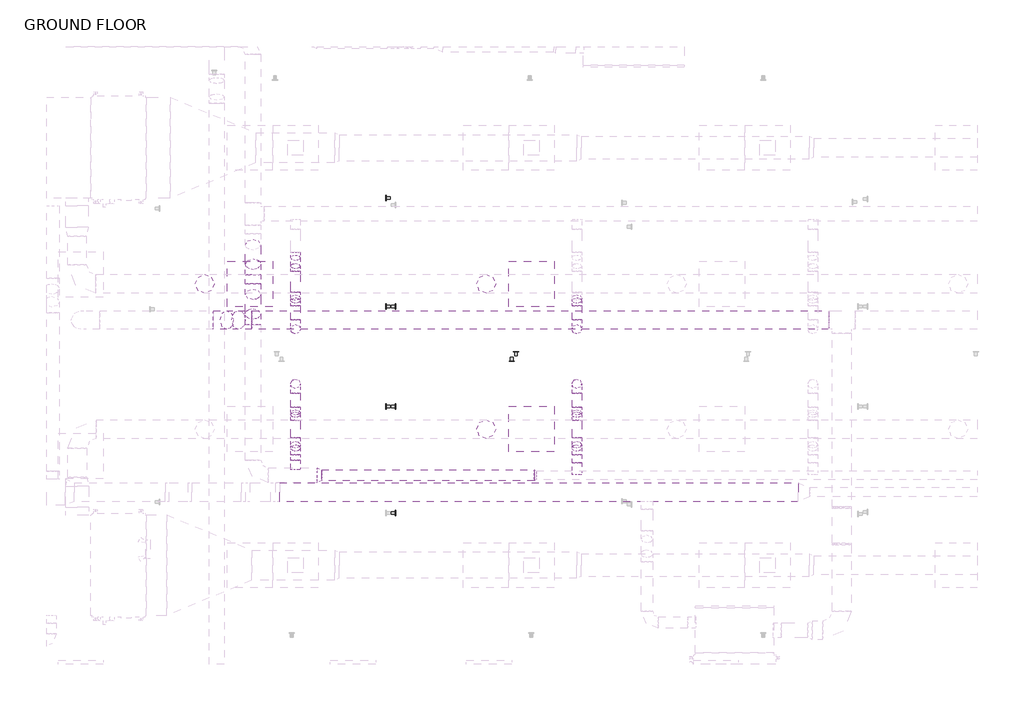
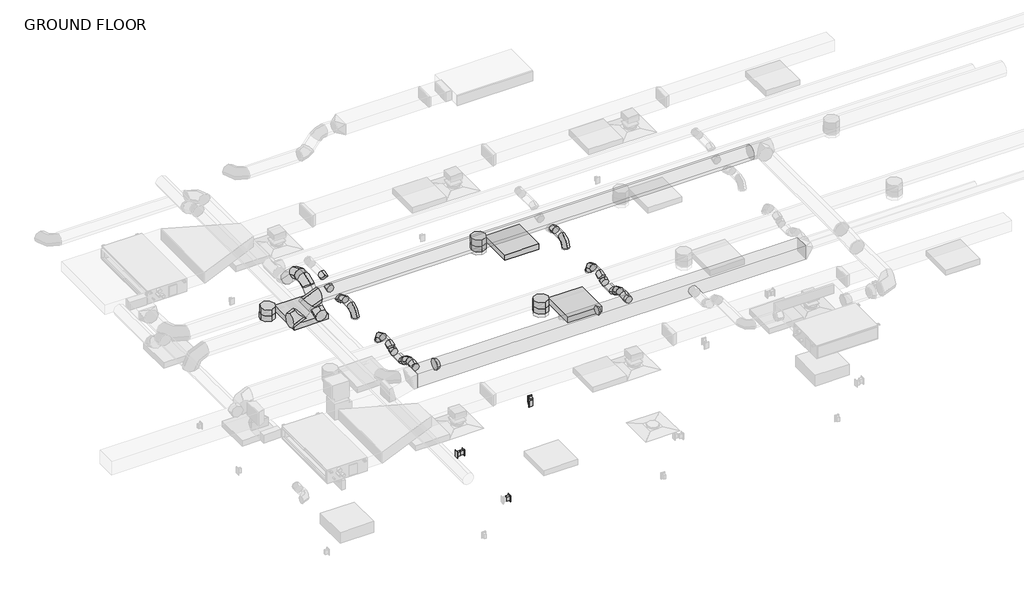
# One storey, part 3 of 22: 29 duct fittings, 29 duct segments, 6 proxies, 3 light fixtures, 2 electric appliances.
"""IFC4 building model written with IfcOpenShell, lengths in millimetres."""

from ifc_helpers import new_model, si_unit, point, frame, frame_2d, origin, place, context, project, spatial, polyline, circle_curve, trimmed, segment, composite_curve, outline, extrude, transform, mapped, element, save
from components import duplex_receptacle_countertop_10251bba, round_elbow_1_d_c80420c1, round_elbow_1_d_ab3aa7ba, round_elbow_1_d_e3dc691b, round_elbow_1_d_ea3dccb8, round_elbow_1_d_538d8ec8, round_elbow_1_d_400cd2ab, round_elbow_1_d_88736f48, round_elbow_1_d_3f34665d, round_takeoff_standard_c386a54e, round_takeoff_standard_86d024ab, round_takeoff_standard_c5a1f659, round_takeoff_standard_cae0fe22, round_transition_angle_45_degree_f2e0231c, round_transition_angle_45_degree_d2c7fbb0, telephone_outlet_data_plain_18c24199, troffer_corner_insert_2x2_3lamp_e67c7f8f

model = new_model("IFC4")

# Units and contexts
model_context = context("Model", 3, world=origin())
ifc_project = project(units=[si_unit("LENGTHUNIT", "METRE", prefix="MILLI")], contexts=[model_context])

# Site, building, storey
site = spatial("IfcSite", under=ifc_project)
building = spatial("IfcBuilding", under=site)
storey = spatial("IfcBuildingStorey", under=building, Name="GROUND FLOOR", Elevation=30480.0)

# Proxies
placement = place(None, origin())
duplex_receptacle_countertop_shape = duplex_receptacle_countertop_10251bba(model_context)
element("IfcBuildingElementProxy", 1, Name="Duplex Receptacle : Countertop", ObjectType="Duplex Receptacle : Countertop", at=placement, inside=storey, context=model_context, shape_type="MappedRepresentation", body=[
    mapped(duplex_receptacle_countertop_shape, transform((-2751.7704607, -2094.5054995, 30937.2), x_axis=(0.0, -1.0, 0.0), y_axis=(0.0, 0.0, 1.0), z_axis=(-1.0, 0.0, 0.0))),
])
element("IfcBuildingElementProxy", 2, Name="Duplex Receptacle : Countertop", ObjectType="Duplex Receptacle : Countertop", at=placement, inside=storey, context=model_context, shape_type="MappedRepresentation", body=[
    mapped(duplex_receptacle_countertop_shape, transform((-2627.9454607, -2094.5054995, 30937.2), x_axis=(0.0, 1.0, 0.0), y_axis=(0.0, 0.0, 1.0), z_axis=(1.0, 0.0, 0.0))),
])
element("IfcBuildingElementProxy", 3, Name="Duplex Receptacle : Countertop", ObjectType="Duplex Receptacle : Countertop", at=placement, inside=storey, context=model_context, shape_type="MappedRepresentation", body=[
    mapped(duplex_receptacle_countertop_shape, transform((-2627.9454607, -751.4804995, 30937.2), x_axis=(0.0, 1.0, 0.0), y_axis=(0.0, 0.0, 1.0), z_axis=(1.0, 0.0, 0.0))),
])
element("IfcBuildingElementProxy", 4, Name="Duplex Receptacle : Countertop", ObjectType="Duplex Receptacle : Countertop", at=placement, inside=storey, context=model_context, shape_type="MappedRepresentation", body=[
    mapped(duplex_receptacle_countertop_shape, transform((-2751.7704607, -751.4804995, 30937.2), x_axis=(0.0, -1.0, 0.0), y_axis=(0.0, 0.0, 1.0), z_axis=(-1.0, 0.0, 0.0))),
])
element("IfcBuildingElementProxy", 5, Name="Duplex Receptacle : Standard", ObjectType="Duplex Receptacle : Standard", at=placement, inside=storey, context=model_context, shape_type="MappedRepresentation", body=[
    mapped(duplex_receptacle_countertop_shape, transform((-1062.3593132, -1484.9054995, 30937.2), x_axis=(1.0, 0.0, 0.0), y_axis=(0.0, 0.0, 1.0), z_axis=(0.0, -1.0, 0.0))),
])
element("IfcBuildingElementProxy", 6, Name="Duplex Receptacle : Standard", ObjectType="Duplex Receptacle : Standard", at=placement, inside=storey, context=model_context, shape_type="MappedRepresentation", body=[
    mapped(duplex_receptacle_countertop_shape, transform((-1007.2617938, -1361.0804995, 30937.2), x_axis=(-1.0, 0.0, 0.0), y_axis=(0.0, 0.0, 1.0), z_axis=(0.0, 1.0, 0.0))),
])

# Duct fittings
round_elbow_1_d_shape = round_elbow_1_d_c80420c1(model_context)
element("IfcDuctFitting", 7, ObjectType="Round Elbow : 1 D", at=placement, inside=storey, context=model_context, shape_type="MappedRepresentation", body=[
    mapped(round_elbow_1_d_shape, transform((-3970.9704607, -1056.2804995, 33477.2), x_axis=(0.0, -1.0, 0.0), y_axis=(0.0, 0.0, -1.0), z_axis=(1.0, 0.0, 0.0))),
])
element("IfcDuctFitting", 8, ObjectType="Round Elbow : 1 D", at=placement, inside=storey, context=model_context, shape_type="MappedRepresentation", body=[
    mapped(round_elbow_1_d_shape, transform((-189.5454607, -1056.2804995, 33477.2), x_axis=(0.0, -1.0, 0.0), y_axis=(0.0, 0.0, -1.0), z_axis=(1.0, 0.0, 0.0))),
])
round_elbow_1_d_2_shape = round_elbow_1_d_ab3aa7ba(model_context)
element("IfcDuctFitting", 9, ObjectType="Round Elbow : 1 D", at=placement, inside=storey, context=model_context, shape_type="MappedRepresentation", body=[
    mapped(round_elbow_1_d_2_shape, transform((-4541.976464, -909.8231584, 33528.0), x_axis=(0.0, 1.0, 0.0), y_axis=(0.0, 0.0, 1.0), z_axis=(1.0, 0.0, 0.0))),
])
element("IfcDuctFitting", 10, ObjectType="Round Elbow : 1 D", at=placement, inside=storey, context=model_context, shape_type="MappedRepresentation", body=[
    mapped(round_elbow_1_d_2_shape, transform((-4541.976464, -528.8231584, 33909.0), x_axis=(0.0, 0.7071067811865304, 0.7071067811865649), y_axis=(0.0, 0.7071067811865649, -0.7071067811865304), z_axis=(-1.0, 0.0, 0.0))),
])
round_elbow_1_d_3_shape = round_elbow_1_d_e3dc691b(model_context)
element("IfcDuctFitting", 11, ObjectType="Round Elbow : 1 D", at=placement, inside=storey, context=model_context, shape_type="MappedRepresentation", body=[
    mapped(round_elbow_1_d_3_shape, transform((-3970.9704607, -2688.8145579, 33528.0), x_axis=(0.0, 1.0, 0.0), y_axis=(0.0, 0.0, -1.0), z_axis=(-1.0, 0.0, 0.0))),
])
element("IfcDuctFitting", 12, ObjectType="Round Elbow : 1 D", at=placement, inside=storey, context=model_context, shape_type="MappedRepresentation", body=[
    mapped(round_elbow_1_d_3_shape, transform((-3970.9704607, -2571.0260053, 33410.2114474), x_axis=(0.0, 0.7071067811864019, -0.7071067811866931), y_axis=(0.0, 0.7071067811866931, 0.7071067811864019), z_axis=(1.0, 0.0, 0.0))),
])
element("IfcDuctFitting", 13, ObjectType="Round Elbow : 1 D", at=placement, inside=storey, context=model_context, shape_type="MappedRepresentation", body=[
    mapped(round_elbow_1_d_3_shape, transform((-189.5454607, -2571.0260053, 33410.2114474), x_axis=(0.0, 0.7071067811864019, -0.7071067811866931), y_axis=(0.0, 0.7071067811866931, 0.7071067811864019), z_axis=(1.0, 0.0, 0.0))),
])
element("IfcDuctFitting", 14, ObjectType="Round Elbow : 1 D", at=placement, inside=storey, context=model_context, shape_type="MappedRepresentation", body=[
    mapped(round_elbow_1_d_3_shape, transform((-189.5454607, -2688.8145579, 33528.0), x_axis=(0.0, -0.707106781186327, 0.7071067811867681), y_axis=(0.0, -0.7071067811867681, -0.707106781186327), z_axis=(1.0, 0.0, 0.0))),
])
round_elbow_1_d_4_shape = round_elbow_1_d_ea3dccb8(model_context)
element("IfcDuctFitting", 15, ObjectType="Round Elbow : 1 D", at=placement, inside=storey, context=model_context, shape_type="MappedRepresentation", body=[
    mapped(round_elbow_1_d_4_shape, transform((-4664.8198591, -932.4554995, 33883.6), x_axis=(-1.0, 0.0, 0.0), y_axis=(0.0, 0.0, -1.0), z_axis=(0.0, -1.0, 0.0))),
])
element("IfcDuctFitting", 16, ObjectType="Round Elbow : 1 D", at=placement, inside=storey, context=model_context, shape_type="MappedRepresentation", body=[
    mapped(round_elbow_1_d_4_shape, transform((-4969.6198591, -932.4554995, 33578.8), x_axis=(-0.7071067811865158, 0.0, -0.7071067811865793), y_axis=(-0.7071067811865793, 0.0, 0.7071067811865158), z_axis=(0.0, 1.0, 0.0))),
])
round_elbow_1_d_5_shape = round_elbow_1_d_538d8ec8(model_context)
element("IfcDuctFitting", 17, ObjectType="Round Elbow : 1 D", at=placement, inside=storey, context=model_context, shape_type="MappedRepresentation", body=[
    mapped(round_elbow_1_d_5_shape, transform((-3970.9704607, -703.4357216, 33477.2), x_axis=(0.0, 1.0, 0.0), y_axis=(0.0, 0.0, -1.0), z_axis=(-1.0, 0.0, 0.0))),
])
element("IfcDuctFitting", 18, ObjectType="Round Elbow : 1 D", at=placement, inside=storey, context=model_context, shape_type="MappedRepresentation", body=[
    mapped(round_elbow_1_d_5_shape, transform((-3970.9704607, -599.403412, 33404.3557926), x_axis=(0.0, 0.8191520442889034, -0.5735764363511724), y_axis=(0.0, 0.5735764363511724, 0.8191520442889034), z_axis=(1.0, 0.0, 0.0))),
])
element("IfcDuctFitting", 19, ObjectType="Round Elbow : 1 D", at=placement, inside=storey, context=model_context, shape_type="MappedRepresentation", body=[
    mapped(round_elbow_1_d_5_shape, transform((-3970.9704607, -240.3054995, 33404.3557926), x_axis=(0.0, 1.0, 0.0), y_axis=(0.0, 0.0, 1.0), z_axis=(1.0, 0.0, 0.0))),
])
element("IfcDuctFitting", 20, ObjectType="Round Elbow : 1 D", at=placement, inside=storey, context=model_context, shape_type="MappedRepresentation", body=[
    mapped(round_elbow_1_d_5_shape, transform((-3970.9704607, -2238.2198452, 33410.2114474), x_axis=(0.0, -0.8191520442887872, -0.5735764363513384), y_axis=(0.0, -0.5735764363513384, 0.8191520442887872), z_axis=(-1.0, 0.0, 0.0))),
])
element("IfcDuctFitting", 21, ObjectType="Round Elbow : 1 D", at=placement, inside=storey, context=model_context, shape_type="MappedRepresentation", body=[
    mapped(round_elbow_1_d_5_shape, transform((-3970.9704607, -63.7232711, 33528.0), x_axis=(0.0, 0.8191520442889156, 0.5735764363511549), y_axis=(0.0, 0.5735764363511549, -0.8191520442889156), z_axis=(-1.0, 0.0, 0.0))),
])
element("IfcDuctFitting", 22, ObjectType="Round Elbow : 1 D", at=placement, inside=storey, context=model_context, shape_type="MappedRepresentation", body=[
    mapped(round_elbow_1_d_5_shape, transform((-189.5454607, -703.4357216, 33477.2), x_axis=(0.0, 1.0, 0.0), y_axis=(0.0, 0.0, -1.0), z_axis=(-1.0, 0.0, 0.0))),
])
element("IfcDuctFitting", 23, ObjectType="Round Elbow : 1 D", at=placement, inside=storey, context=model_context, shape_type="MappedRepresentation", body=[
    mapped(round_elbow_1_d_5_shape, transform((-189.5454607, -2238.2198452, 33410.2114474), x_axis=(0.0, -0.8191520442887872, -0.5735764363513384), y_axis=(0.0, -0.5735764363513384, 0.8191520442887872), z_axis=(-1.0, 0.0, 0.0))),
])
round_elbow_1_d_6_shape = round_elbow_1_d_400cd2ab(model_context)
element("IfcDuctFitting", 24, ObjectType="Round Elbow : 1 D", at=placement, inside=storey, context=model_context, shape_type="MappedRepresentation", body=[
    mapped(round_elbow_1_d_6_shape, transform((-3970.9704607, -1789.7054995, 33477.2), x_axis=(0.0, 1.0, 0.0), y_axis=(0.0, 0.0, 1.0), z_axis=(1.0, 0.0, 0.0))),
])
element("IfcDuctFitting", 25, ObjectType="Round Elbow : 1 D", at=placement, inside=storey, context=model_context, shape_type="MappedRepresentation", body=[
    mapped(round_elbow_1_d_6_shape, transform((-189.5454607, -1789.7054995, 33477.2), x_axis=(0.0, 1.0, 0.0), y_axis=(0.0, 0.0, 1.0), z_axis=(1.0, 0.0, 0.0))),
])
round_elbow_1_d_7_shape = round_elbow_1_d_88736f48(model_context)
element("IfcDuctFitting", 26, ObjectType="Round Elbow : 1 D", at=placement, inside=storey, context=model_context, shape_type="MappedRepresentation", body=[
    mapped(round_elbow_1_d_7_shape, transform((-3970.9704607, -2142.5502773, 33477.2), x_axis=(0.0, -1.0, 0.0), y_axis=(0.0, 0.0, 1.0), z_axis=(-1.0, 0.0, 0.0))),
])
element("IfcDuctFitting", 27, ObjectType="Round Elbow : 1 D", at=placement, inside=storey, context=model_context, shape_type="MappedRepresentation", body=[
    mapped(round_elbow_1_d_7_shape, transform((-189.5454607, -2142.5502773, 33477.2), x_axis=(0.0, -1.0, 0.0), y_axis=(0.0, 0.0, 1.0), z_axis=(-1.0, 0.0, 0.0))),
])
round_elbow_1_d_8_shape = round_elbow_1_d_3f34665d(model_context)
element("IfcDuctFitting", 28, ObjectType="Round Elbow : 1 D", at=placement, inside=storey, context=model_context, shape_type="MappedRepresentation", body=[
    mapped(round_elbow_1_d_8_shape, transform((-4541.976464, -241.4549626, 33909.0), x_axis=(0.0, -0.7071067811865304, 0.7071067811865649), y_axis=(0.0, 0.7071067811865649, 0.7071067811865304), z_axis=(-1.0, 0.0, 0.0))),
])
round_takeoff_standard_shape = round_takeoff_standard_c386a54e(model_context)
element("IfcDuctFitting", 29, ObjectType="Round Takeoff : Standard", at=placement, inside=storey, context=model_context, shape_type="MappedRepresentation", body=[
    mapped(round_takeoff_standard_shape, transform((-1408.7454607, -446.6804995, 33490.69375), x_axis=(0.0, 0.0, -1.0), y_axis=(-1.0, 0.0, 0.0), z_axis=(0.0, 1.0, 0.0))),
])
element("IfcDuctFitting", 30, ObjectType="Round Takeoff : Standard", at=placement, inside=storey, context=model_context, shape_type="MappedRepresentation", body=[
    mapped(round_takeoff_standard_shape, transform((-5190.1704607, -446.6804995, 33490.69375), x_axis=(0.0, 0.0, -1.0), y_axis=(-1.0, 0.0, 0.0), z_axis=(0.0, 1.0, 0.0))),
])
round_takeoff_standard_2_shape = round_takeoff_standard_86d024ab(model_context)
element("IfcDuctFitting", 31, ObjectType="Round Takeoff : Standard", at=placement, inside=storey, context=model_context, shape_type="MappedRepresentation", body=[
    mapped(round_takeoff_standard_2_shape, transform((-3970.9704607, -2917.4145579, 33528.0), x_axis=(0.0, 1.0, 0.0), y_axis=(1.0, 0.0, 0.0), z_axis=(0.0, 0.0, -1.0))),
])
round_takeoff_standard_3_shape = round_takeoff_standard_c5a1f659(model_context)
element("IfcDuctFitting", 32, ObjectType="Round Takeoff : Standard", at=placement, inside=storey, context=model_context, shape_type="MappedRepresentation", body=[
    mapped(round_takeoff_standard_3_shape, transform((-1408.7454607, -2399.3054995, 33490.69375), x_axis=(0.0, 0.0, -1.0), y_axis=(-1.0, 0.0, 0.0), z_axis=(0.0, 1.0, 0.0))),
])
round_takeoff_standard_4_shape = round_takeoff_standard_cae0fe22(model_context)
element("IfcDuctFitting", 33, ObjectType="Round Takeoff : Standard", at=placement, inside=storey, context=model_context, shape_type="MappedRepresentation", body=[
    mapped(round_takeoff_standard_4_shape, transform((-189.5454607, -2955.5145579, 33528.0), x_axis=(0.0, 1.0, 0.0), y_axis=(1.0, 0.0, 0.0), z_axis=(0.0, 0.0, -1.0))),
])
round_transition_angle_45_degree_shape = round_transition_angle_45_degree_f2e0231c(model_context)
element("IfcDuctFitting", 34, ObjectType="Round Transition - Angle : 45 Degree", at=placement, inside=storey, context=model_context, shape_type="MappedRepresentation", body=[
    mapped(round_transition_angle_45_degree_shape, transform((-731.976464, -3019.0145579, 33528.0), x_axis=(-1.0, 0.0, 0.0), y_axis=(0.0, -1.0, 0.0), z_axis=(0.0, 0.0, 1.0))),
])
round_transition_angle_45_degree_2_shape = round_transition_angle_45_degree_d2c7fbb0(model_context)
element("IfcDuctFitting", 35, ObjectType="Round Transition - Angle : 45 Degree", at=placement, inside=storey, context=model_context, shape_type="MappedRepresentation", body=[
    mapped(round_transition_angle_45_degree_2_shape, transform((-3681.8784098, -3019.0145579, 33528.0), x_axis=(1.0, 0.0, 0.0), y_axis=(0.0, 1.0, 0.0), z_axis=(0.0, 0.0, 1.0))),
])

# Duct segments
element("IfcDuctSegment", 36, ObjectType="Radius Elbows / Taps", at=placement, inside=storey, context=model_context, shape_type="SweptSolid", body=[
    extrude(outline(polyline([(2787.255189, -3118.6216457), (2787.255189, -3372.6216457), (-4184.5880259, -3372.6216457), (-4184.5880259, -3118.6216457), (2787.255189, -3118.6216457)])), frame((0.0, 0.0, 33475.867541), z_axis=(0.0, 0.0, 1.0), x_axis=(1.0, 0.0, 0.0)), (0.0, 0.0, 1.0), 254.0),
])
element("IfcDuctSegment", 37, ObjectType="Taps / Short Radius", at=placement, inside=storey, context=model_context, shape_type="SweptSolid", body=[
    extrude(outline(composite_curve([segment(trimmed(circle_curve(frame_2d((-932.4554995, 33883.6)), 127.0), [point((-805.4554995, 33883.6))], [point((-932.4554995, 33756.6))], False, "CARTESIAN"), True, "CONTINUOUS"), segment(trimmed(circle_curve(frame_2d((-932.4554995, 33883.6)), 127.0), [point((-932.4554995, 33756.6))], [point((-1059.4554995, 33883.6))], False, "CARTESIAN"), True, "CONTINUOUS"), segment(trimmed(circle_curve(frame_2d((-932.4554995, 33883.6)), 127.0), [point((-1059.4554995, 33883.6))], [point((-932.4554995, 34010.6))], False, "CARTESIAN"), True, "CONTINUOUS"), segment(trimmed(circle_curve(frame_2d((-932.4554995, 33883.6)), 127.0), [point((-932.4554995, 34010.6))], [point((-805.4554995, 33883.6))], False, "CARTESIAN"), True, "CONTINUOUS")], self_intersect=False)), frame((-4559.6096142, 0.0, 0.0), z_axis=(1.0, 0.0, 0.0), x_axis=(0.0, 1.0, 0.0)), (0.0, 0.0, 1.0), 7755.0178177),
])
element("IfcDuctSegment", 38, ObjectType="Taps / Short Radius", at=placement, inside=storey, context=model_context, shape_type="SweptSolid", body=[
    extrude(outline(composite_curve([segment(trimmed(circle_curve(frame_2d((0.0, -127.0)), 127.0), [point((0.0, 0.0))], [point((127.0, -127.0))], False, "CARTESIAN"), True, "CONTINUOUS"), segment(trimmed(circle_curve(frame_2d((0.0, -127.0)), 127.0), [point((127.0, -127.0))], [point((0.0, -254.0))], False, "CARTESIAN"), True, "CONTINUOUS"), segment(trimmed(circle_curve(frame_2d((0.0, -127.0)), 127.0), [point((0.0, -254.0))], [point((-127.0, -127.0))], False, "CARTESIAN"), True, "CONTINUOUS"), segment(trimmed(circle_curve(frame_2d((0.0, -127.0)), 127.0), [point((-127.0, -127.0))], [point((0.0, 0.0))], False, "CARTESIAN"), True, "CONTINUOUS")], self_intersect=False)), frame((-4895.2249815, -805.4554995, 33653.1948776), z_axis=(0.7071067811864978, 0.0, 0.7071067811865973), x_axis=(0.7071067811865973, 0.0, -0.7071067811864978)), (0.0, 0.0, 1.0), 220.6318041),
])
element("IfcDuctSegment", 39, ObjectType="Taps / Short Radius", at=placement, inside=storey, context=model_context, shape_type="SweptSolid", body=[
    extrude(outline(composite_curve([segment(trimmed(circle_curve(frame_2d((-1408.7454607, -2399.3054995)), 127.0), [point((-1535.7454607, -2399.3054995))], [point((-1408.7454607, -2272.3054995))], False, "CARTESIAN"), True, "CONTINUOUS"), segment(trimmed(circle_curve(frame_2d((-1408.7454607, -2399.3054995)), 127.0), [point((-1408.7454607, -2272.3054995))], [point((-1281.7454607, -2399.3054995))], False, "CARTESIAN"), True, "CONTINUOUS"), segment(trimmed(circle_curve(frame_2d((-1408.7454607, -2399.3054995)), 127.0), [point((-1281.7454607, -2399.3054995))], [point((-1408.7454607, -2526.3054995))], False, "CARTESIAN"), True, "CONTINUOUS"), segment(trimmed(circle_curve(frame_2d((-1408.7454607, -2399.3054995)), 127.0), [point((-1408.7454607, -2526.3054995))], [point((-1535.7454607, -2399.3054995))], False, "CARTESIAN"), True, "CONTINUOUS")], self_intersect=False)), frame((0.0, 0.0, 33324.8), z_axis=(0.0, 0.0, 1.0), x_axis=(1.0, 0.0, 0.0)), (0.0, 0.0, 1.0), 64.29375),
])
element("IfcDuctSegment", 40, ObjectType="Taps / Short Radius", at=placement, inside=storey, context=model_context, shape_type="SweptSolid", body=[
    extrude(outline(composite_curve([segment(trimmed(circle_curve(frame_2d((-1408.7454607, -446.6804995)), 127.0), [point((-1535.7454607, -446.6804995))], [point((-1408.7454607, -319.6804995))], False, "CARTESIAN"), True, "CONTINUOUS"), segment(trimmed(circle_curve(frame_2d((-1408.7454607, -446.6804995)), 127.0), [point((-1408.7454607, -319.6804995))], [point((-1281.7454607, -446.6804995))], False, "CARTESIAN"), True, "CONTINUOUS"), segment(trimmed(circle_curve(frame_2d((-1408.7454607, -446.6804995)), 127.0), [point((-1281.7454607, -446.6804995))], [point((-1408.7454607, -573.6804995))], False, "CARTESIAN"), True, "CONTINUOUS"), segment(trimmed(circle_curve(frame_2d((-1408.7454607, -446.6804995)), 127.0), [point((-1408.7454607, -573.6804995))], [point((-1535.7454607, -446.6804995))], False, "CARTESIAN"), True, "CONTINUOUS")], self_intersect=False)), frame((0.0, 0.0, 33324.8), z_axis=(0.0, 0.0, 1.0), x_axis=(1.0, 0.0, 0.0)), (0.0, 0.0, 1.0), 64.29375),
])
element("IfcDuctSegment", 41, ObjectType="Taps / Short Radius", at=placement, inside=storey, context=model_context, shape_type="SweptSolid", body=[
    extrude(outline(composite_curve([segment(trimmed(circle_curve(frame_2d((-3970.9704607, -1056.2804995)), 63.5), [point((-4034.4704607, -1056.2804995))], [point((-3970.9704607, -992.7804995))], False, "CARTESIAN"), True, "CONTINUOUS"), segment(trimmed(circle_curve(frame_2d((-3970.9704607, -1056.2804995)), 63.5), [point((-3970.9704607, -992.7804995))], [point((-3907.4704607, -1056.2804995))], False, "CARTESIAN"), True, "CONTINUOUS"), segment(trimmed(circle_curve(frame_2d((-3970.9704607, -1056.2804995)), 63.5), [point((-3907.4704607, -1056.2804995))], [point((-3970.9704607, -1119.7804995))], False, "CARTESIAN"), True, "CONTINUOUS"), segment(trimmed(circle_curve(frame_2d((-3970.9704607, -1056.2804995)), 63.5), [point((-3970.9704607, -1119.7804995))], [point((-4034.4704607, -1056.2804995))], False, "CARTESIAN"), True, "CONTINUOUS")], self_intersect=False)), frame((0.0, 0.0, 33324.8), z_axis=(0.0, 0.0, 1.0), x_axis=(1.0, 0.0, 0.0)), (0.0, 0.0, 1.0), 25.4),
])
element("IfcDuctSegment", 42, ObjectType="Taps / Short Radius", at=placement, inside=storey, context=model_context, shape_type="SweptSolid", body=[
    extrude(outline(composite_curve([segment(trimmed(circle_curve(frame_2d((-3019.0145579, 33528.0)), 76.2), [point((-2942.8145579, 33528.0))], [point((-3019.0145579, 33451.8))], False, "CARTESIAN"), True, "CONTINUOUS"), segment(trimmed(circle_curve(frame_2d((-3019.0145579, 33528.0)), 76.2), [point((-3019.0145579, 33451.8))], [point((-3095.2145579, 33528.0))], False, "CARTESIAN"), True, "CONTINUOUS"), segment(trimmed(circle_curve(frame_2d((-3019.0145579, 33528.0)), 76.2), [point((-3095.2145579, 33528.0))], [point((-3019.0145579, 33604.2))], False, "CARTESIAN"), True, "CONTINUOUS"), segment(trimmed(circle_curve(frame_2d((-3019.0145579, 33528.0)), 76.2), [point((-3019.0145579, 33604.2))], [point((-2942.8145579, 33528.0))], False, "CARTESIAN"), True, "CONTINUOUS")], self_intersect=False)), frame((-3620.5573854, 0.0, 0.0), z_axis=(1.0, 0.0, 0.0), x_axis=(0.0, 1.0, 0.0)), (0.0, 0.0, 1.0), 2857.9204091),
])
element("IfcDuctSegment", 43, ObjectType="Taps / Short Radius", at=placement, inside=storey, context=model_context, shape_type="SweptSolid", body=[
    extrude(outline(composite_curve([segment(trimmed(circle_curve(frame_2d((33909.0, -4541.976464)), 101.6), [point((33909.0, -4440.376464))], [point((34010.6, -4541.976464))], False, "CARTESIAN"), True, "CONTINUOUS"), segment(trimmed(circle_curve(frame_2d((33909.0, -4541.976464)), 101.6), [point((34010.6, -4541.976464))], [point((33909.0, -4643.576464))], False, "CARTESIAN"), True, "CONTINUOUS"), segment(trimmed(circle_curve(frame_2d((33909.0, -4541.976464)), 101.6), [point((33909.0, -4643.576464))], [point((33807.4, -4541.976464))], False, "CARTESIAN"), True, "CONTINUOUS"), segment(trimmed(circle_curve(frame_2d((33909.0, -4541.976464)), 101.6), [point((33807.4, -4541.976464))], [point((33909.0, -4440.376464))], False, "CARTESIAN"), True, "CONTINUOUS")], self_intersect=False)), frame((0.0, -444.6549626, 0.0), z_axis=(0.0, 1.0, 0.0), x_axis=(0.0, 0.0, 1.0)), (0.0, 0.0, 1.0), 119.0318041),
])
element("IfcDuctSegment", 44, ObjectType="Taps / Short Radius", at=placement, inside=storey, context=model_context, shape_type="SweptSolid", body=[
    extrude(outline(composite_curve([segment(trimmed(circle_curve(frame_2d((0.0, 101.5999999)), 101.6), [point((101.6, 101.5999999))], [point((0.0, 0.0))], False, "CARTESIAN"), True, "CONTINUOUS"), segment(trimmed(circle_curve(frame_2d((0.0, 101.5999999)), 101.6), [point((0.0, 0.0))], [point((-101.6, 101.5999999))], False, "CARTESIAN"), True, "CONTINUOUS"), segment(trimmed(circle_curve(frame_2d((0.0, 101.5999999)), 101.6), [point((-101.6, 101.5999999))], [point((0.0, 203.1999999))], False, "CARTESIAN"), True, "CONTINUOUS"), segment(trimmed(circle_curve(frame_2d((0.0, 101.5999999)), 101.6), [point((0.0, 203.1999999))], [point((101.6, 101.5999999))], False, "CARTESIAN"), True, "CONTINUOUS")], self_intersect=False)), frame((-4541.976464, -922.1493053, 33659.357951), z_axis=(0.0, 0.7071067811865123, 0.7071067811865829), x_axis=(1.0, 0.0, 0.0)), (0.0, 0.0, 1.0), 370.4789755),
])
element("IfcDuctSegment", 45, ObjectType="Taps / Short Radius", at=placement, inside=storey, context=model_context, shape_type="SweptSolid", body=[
    extrude(outline(composite_curve([segment(trimmed(circle_curve(frame_2d((33477.2, -3970.9704607)), 63.5), [point((33477.2, -3907.4704607))], [point((33540.7, -3970.9704607))], False, "CARTESIAN"), True, "CONTINUOUS"), segment(trimmed(circle_curve(frame_2d((33477.2, -3970.9704607)), 63.5), [point((33540.7, -3970.9704607))], [point((33477.2, -4034.4704607))], False, "CARTESIAN"), True, "CONTINUOUS"), segment(trimmed(circle_curve(frame_2d((33477.2, -3970.9704607)), 63.5), [point((33477.2, -4034.4704607))], [point((33413.7, -3970.9704607))], False, "CARTESIAN"), True, "CONTINUOUS"), segment(trimmed(circle_curve(frame_2d((33477.2, -3970.9704607)), 63.5), [point((33413.7, -3970.9704607))], [point((33477.2, -3907.4704607))], False, "CARTESIAN"), True, "CONTINUOUS")], self_intersect=False)), frame((0.0, -929.2804995, 0.0), z_axis=(0.0, 1.0, 0.0), x_axis=(0.0, 0.0, 1.0)), (0.0, 0.0, 1.0), 185.8018317),
])
element("IfcDuctSegment", 46, ObjectType="Taps / Short Radius", at=placement, inside=storey, context=model_context, shape_type="SweptSolid", body=[
    extrude(outline(composite_curve([segment(trimmed(circle_curve(frame_2d((0.0, -63.5)), 63.5), [point((63.5, -63.5))], [point((0.0, -127.0000001))], False, "CARTESIAN"), True, "CONTINUOUS"), segment(trimmed(circle_curve(frame_2d((0.0, -63.5)), 63.5), [point((0.0, -127.0000001))], [point((-63.5, -63.5))], False, "CARTESIAN"), True, "CONTINUOUS"), segment(trimmed(circle_curve(frame_2d((0.0, -63.5)), 63.5), [point((-63.5, -63.5))], [point((0.0, 0.0))], False, "CARTESIAN"), True, "CONTINUOUS"), segment(trimmed(circle_curve(frame_2d((0.0, -63.5)), 63.5), [point((0.0, 0.0))], [point((63.5, -63.5))], False, "CARTESIAN"), True, "CONTINUOUS")], self_intersect=False)), frame((-3970.9704607, -595.7825695, 33479.3396378), z_axis=(0.0, -0.8191520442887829, 0.5735764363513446), x_axis=(1.0, 0.0, 0.0)), (0.0, 0.0, 1.0), 46.9141076),
])
element("IfcDuctSegment", 47, ObjectType="Taps / Short Radius", at=placement, inside=storey, context=model_context, shape_type="SweptSolid", body=[
    extrude(outline(composite_curve([segment(trimmed(circle_curve(frame_2d((33404.3557926, -3970.9704607)), 63.5), [point((33404.3557926, -3907.4704607))], [point((33467.8557926, -3970.9704607))], False, "CARTESIAN"), True, "CONTINUOUS"), segment(trimmed(circle_curve(frame_2d((33404.3557926, -3970.9704607)), 63.5), [point((33467.8557926, -3970.9704607))], [point((33404.3557926, -4034.4704607))], False, "CARTESIAN"), True, "CONTINUOUS"), segment(trimmed(circle_curve(frame_2d((33404.3557926, -3970.9704607)), 63.5), [point((33404.3557926, -4034.4704607))], [point((33340.8557926, -3970.9704607))], False, "CARTESIAN"), True, "CONTINUOUS"), segment(trimmed(circle_curve(frame_2d((33404.3557926, -3970.9704607)), 63.5), [point((33340.8557926, -3970.9704607))], [point((33404.3557926, -3907.4704607))], False, "CARTESIAN"), True, "CONTINUOUS")], self_intersect=False)), frame((0.0, -559.3604658, 0.0), z_axis=(0.0, 1.0, 0.0), x_axis=(0.0, 0.0, 1.0)), (0.0, 0.0, 1.0), 279.0120202),
])
element("IfcDuctSegment", 48, ObjectType="Taps / Short Radius", at=placement, inside=storey, context=model_context, shape_type="SweptSolid", body=[
    extrude(outline(composite_curve([segment(trimmed(circle_curve(frame_2d((0.0, 63.5)), 63.5), [point((63.5, 63.5))], [point((0.0, 0.0))], False, "CARTESIAN"), True, "CONTINUOUS"), segment(trimmed(circle_curve(frame_2d((0.0, 63.5)), 63.5), [point((0.0, 0.0))], [point((-63.5, 63.5))], False, "CARTESIAN"), True, "CONTINUOUS"), segment(trimmed(circle_curve(frame_2d((0.0, 63.5)), 63.5), [point((-63.5, 63.5))], [point((0.0, 127.0000001))], False, "CARTESIAN"), True, "CONTINUOUS"), segment(trimmed(circle_curve(frame_2d((0.0, 63.5)), 63.5), [point((0.0, 127.0000001))], [point((63.5, 63.5))], False, "CARTESIAN"), True, "CONTINUOUS")], self_intersect=False)), frame((-3970.9704607, -243.926342, 33479.3396378), z_axis=(0.0, 0.81915204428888, 0.5735764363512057), x_axis=(1.0, 0.0, 0.0)), (0.0, 0.0, 1.0), 135.4812048),
])
element("IfcDuctSegment", 49, ObjectType="Taps / Short Radius", at=placement, inside=storey, context=model_context, shape_type="SweptSolid", body=[
    extrude(outline(composite_curve([segment(trimmed(circle_curve(frame_2d((-3970.9704607, -1789.7054995)), 63.5), [point((-3907.4704607, -1789.7054995))], [point((-3970.9704607, -1853.2054995))], False, "CARTESIAN"), True, "CONTINUOUS"), segment(trimmed(circle_curve(frame_2d((-3970.9704607, -1789.7054995)), 63.5), [point((-3970.9704607, -1853.2054995))], [point((-4034.4704607, -1789.7054995))], False, "CARTESIAN"), True, "CONTINUOUS"), segment(trimmed(circle_curve(frame_2d((-3970.9704607, -1789.7054995)), 63.5), [point((-4034.4704607, -1789.7054995))], [point((-3970.9704607, -1726.2054995))], False, "CARTESIAN"), True, "CONTINUOUS"), segment(trimmed(circle_curve(frame_2d((-3970.9704607, -1789.7054995)), 63.5), [point((-3970.9704607, -1726.2054995))], [point((-3907.4704607, -1789.7054995))], False, "CARTESIAN"), True, "CONTINUOUS")], self_intersect=False)), frame((0.0, 0.0, 33324.8), z_axis=(0.0, 0.0, 1.0), x_axis=(1.0, 0.0, 0.0)), (0.0, 0.0, 1.0), 25.4),
])
element("IfcDuctSegment", 50, ObjectType="Taps / Short Radius", at=placement, inside=storey, context=model_context, shape_type="SweptSolid", body=[
    extrude(outline(composite_curve([segment(trimmed(circle_curve(frame_2d((33477.2, -3970.9704607)), 63.5), [point((33477.2, -4034.4704607))], [point((33413.7, -3970.9704607))], False, "CARTESIAN"), True, "CONTINUOUS"), segment(trimmed(circle_curve(frame_2d((33477.2, -3970.9704607)), 63.5), [point((33413.7, -3970.9704607))], [point((33477.2, -3907.4704607))], False, "CARTESIAN"), True, "CONTINUOUS"), segment(trimmed(circle_curve(frame_2d((33477.2, -3970.9704607)), 63.5), [point((33477.2, -3907.4704607))], [point((33540.7, -3970.9704607))], False, "CARTESIAN"), True, "CONTINUOUS"), segment(trimmed(circle_curve(frame_2d((33477.2, -3970.9704607)), 63.5), [point((33540.7, -3970.9704607))], [point((33477.2, -4034.4704607))], False, "CARTESIAN"), True, "CONTINUOUS")], self_intersect=False)), frame((0.0, -2102.5073311, 0.0), z_axis=(0.0, 1.0, 0.0), x_axis=(0.0, 0.0, 1.0)), (0.0, 0.0, 1.0), 185.8018317),
])
element("IfcDuctSegment", 51, ObjectType="Taps / Short Radius", at=placement, inside=storey, context=model_context, shape_type="SweptSolid", body=[
    extrude(outline(composite_curve([segment(trimmed(circle_curve(frame_2d((0.0, -63.5)), 63.5), [point((-63.5, -63.5))], [point((0.0, 0.0))], False, "CARTESIAN"), True, "CONTINUOUS"), segment(trimmed(circle_curve(frame_2d((0.0, -63.5)), 63.5), [point((0.0, 0.0))], [point((63.5, -63.5))], False, "CARTESIAN"), True, "CONTINUOUS"), segment(trimmed(circle_curve(frame_2d((0.0, -63.5)), 63.5), [point((63.5, -63.5))], [point((0.0, -127.0))], False, "CARTESIAN"), True, "CONTINUOUS"), segment(trimmed(circle_curve(frame_2d((0.0, -63.5)), 63.5), [point((0.0, -127.0))], [point((-63.5, -63.5))], False, "CARTESIAN"), True, "CONTINUOUS")], self_intersect=False)), frame((-3970.9704607, -2168.9964802, 33381.162983), z_axis=(0.0, 0.819152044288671, 0.5735764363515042), x_axis=(1.0, 0.0, 0.0)), (0.0, 0.0, 1.0), 36.7050849),
])
element("IfcDuctSegment", 52, ObjectType="Taps / Short Radius", at=placement, inside=storey, context=model_context, shape_type="SweptSolid", body=[
    extrude(outline(composite_curve([segment(trimmed(circle_curve(frame_2d((0.0, -101.5999999)), 101.6), [point((101.6, -101.5999999))], [point((0.0, -203.1999999))], False, "CARTESIAN"), True, "CONTINUOUS"), segment(trimmed(circle_curve(frame_2d((0.0, -101.5999999)), 101.6), [point((0.0, -203.1999999))], [point((-101.6, -101.5999999))], False, "CARTESIAN"), True, "CONTINUOUS"), segment(trimmed(circle_curve(frame_2d((0.0, -101.5999999)), 101.6), [point((-101.6, -101.5999999))], [point((0.0, 0.0))], False, "CARTESIAN"), True, "CONTINUOUS"), segment(trimmed(circle_curve(frame_2d((0.0, -101.5999999)), 101.6), [point((0.0, 0.0))], [point((101.6, -101.5999999))], False, "CARTESIAN"), True, "CONTINUOUS")], self_intersect=False)), frame((-4541.976464, 151.8711843, 33659.357951), z_axis=(0.0, -0.7071067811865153, 0.7071067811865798), x_axis=(1.0, 0.0, 0.0)), (0.0, 0.0, 1.0), 370.4789755),
])
element("IfcDuctSegment", 53, ObjectType="Taps / Short Radius", at=placement, inside=storey, context=model_context, shape_type="SweptSolid", body=[
    extrude(outline(composite_curve([segment(trimmed(circle_curve(frame_2d((33528.0, -3970.9704607)), 63.5), [point((33528.0, -3907.4704607))], [point((33591.5, -3970.9704607))], False, "CARTESIAN"), True, "CONTINUOUS"), segment(trimmed(circle_curve(frame_2d((33528.0, -3970.9704607)), 63.5), [point((33591.5, -3970.9704607))], [point((33528.0, -4034.4704607))], False, "CARTESIAN"), True, "CONTINUOUS"), segment(trimmed(circle_curve(frame_2d((33528.0, -3970.9704607)), 63.5), [point((33528.0, -4034.4704607))], [point((33464.5, -3970.9704607))], False, "CARTESIAN"), True, "CONTINUOUS"), segment(trimmed(circle_curve(frame_2d((33528.0, -3970.9704607)), 63.5), [point((33464.5, -3970.9704607))], [point((33528.0, -3907.4704607))], False, "CARTESIAN"), True, "CONTINUOUS")], self_intersect=False)), frame((0.0, -2815.8145579, 0.0), z_axis=(0.0, 1.0, 0.0), x_axis=(0.0, 0.0, 1.0)), (0.0, 0.0, 1.0), 74.3948776),
])
element("IfcDuctSegment", 54, ObjectType="Taps / Short Radius", at=placement, inside=storey, context=model_context, shape_type="SweptSolid", body=[
    extrude(outline(composite_curve([segment(trimmed(circle_curve(frame_2d((0.0, -63.5)), 63.5), [point((63.5, -63.5))], [point((0.0, -127.0))], False, "CARTESIAN"), True, "CONTINUOUS"), segment(trimmed(circle_curve(frame_2d((0.0, -63.5)), 63.5), [point((0.0, -127.0))], [point((-63.5, -63.5))], False, "CARTESIAN"), True, "CONTINUOUS"), segment(trimmed(circle_curve(frame_2d((0.0, -63.5)), 63.5), [point((-63.5, -63.5))], [point((0.0, 0.0))], False, "CARTESIAN"), True, "CONTINUOUS"), segment(trimmed(circle_curve(frame_2d((0.0, -63.5)), 63.5), [point((0.0, 0.0))], [point((63.5, -63.5))], False, "CARTESIAN"), True, "CONTINUOUS")], self_intersect=False)), frame((-3970.9704607, -2563.3221635, 33492.3101668), z_axis=(0.0, -0.7071067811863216, 0.7071067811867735), x_axis=(1.0, 0.0, 0.0)), (0.0, 0.0, 1.0), 61.3679237),
])
element("IfcDuctSegment", 55, ObjectType="Taps / Short Radius", at=placement, inside=storey, context=model_context, shape_type="SweptSolid", body=[
    extrude(outline(composite_curve([segment(trimmed(circle_curve(frame_2d((33410.2114474, -3970.9704607)), 63.5), [point((33410.2114474, -4034.4704607))], [point((33346.7114474, -3970.9704607))], False, "CARTESIAN"), True, "CONTINUOUS"), segment(trimmed(circle_curve(frame_2d((33410.2114474, -3970.9704607)), 63.5), [point((33346.7114474, -3970.9704607))], [point((33410.2114474, -3907.4704607))], False, "CARTESIAN"), True, "CONTINUOUS"), segment(trimmed(circle_curve(frame_2d((33410.2114474, -3970.9704607)), 63.5), [point((33410.2114474, -3907.4704607))], [point((33473.7114474, -3970.9704607))], False, "CARTESIAN"), True, "CONTINUOUS"), segment(trimmed(circle_curve(frame_2d((33410.2114474, -3970.9704607)), 63.5), [point((33473.7114474, -3970.9704607))], [point((33410.2114474, -4034.4704607))], False, "CARTESIAN"), True, "CONTINUOUS")], self_intersect=False)), frame((0.0, -2518.4208829, 0.0), z_axis=(0.0, 1.0, 0.0), x_axis=(0.0, 0.0, 1.0)), (0.0, 0.0, 1.0), 240.1580915),
])
element("IfcDuctSegment", 56, ObjectType="Taps / Short Radius", at=placement, inside=storey, context=model_context, shape_type="SweptSolid", body=[
    extrude(outline(composite_curve([segment(trimmed(circle_curve(frame_2d((-189.5454607, -1056.2804995)), 63.5), [point((-253.0454607, -1056.2804995))], [point((-189.5454607, -992.7804995))], False, "CARTESIAN"), True, "CONTINUOUS"), segment(trimmed(circle_curve(frame_2d((-189.5454607, -1056.2804995)), 63.5), [point((-189.5454607, -992.7804995))], [point((-126.0454607, -1056.2804995))], False, "CARTESIAN"), True, "CONTINUOUS"), segment(trimmed(circle_curve(frame_2d((-189.5454607, -1056.2804995)), 63.5), [point((-126.0454607, -1056.2804995))], [point((-189.5454607, -1119.7804995))], False, "CARTESIAN"), True, "CONTINUOUS"), segment(trimmed(circle_curve(frame_2d((-189.5454607, -1056.2804995)), 63.5), [point((-189.5454607, -1119.7804995))], [point((-253.0454607, -1056.2804995))], False, "CARTESIAN"), True, "CONTINUOUS")], self_intersect=False)), frame((0.0, 0.0, 33324.8), z_axis=(0.0, 0.0, 1.0), x_axis=(1.0, 0.0, 0.0)), (0.0, 0.0, 1.0), 25.4),
])
element("IfcDuctSegment", 57, ObjectType="Taps / Short Radius", at=placement, inside=storey, context=model_context, shape_type="SweptSolid", body=[
    extrude(outline(composite_curve([segment(trimmed(circle_curve(frame_2d((33477.2, -189.5454607)), 63.5), [point((33477.2, -126.0454607))], [point((33540.7, -189.5454607))], False, "CARTESIAN"), True, "CONTINUOUS"), segment(trimmed(circle_curve(frame_2d((33477.2, -189.5454607)), 63.5), [point((33540.7, -189.5454607))], [point((33477.2, -253.0454607))], False, "CARTESIAN"), True, "CONTINUOUS"), segment(trimmed(circle_curve(frame_2d((33477.2, -189.5454607)), 63.5), [point((33477.2, -253.0454607))], [point((33413.7, -189.5454607))], False, "CARTESIAN"), True, "CONTINUOUS"), segment(trimmed(circle_curve(frame_2d((33477.2, -189.5454607)), 63.5), [point((33413.7, -189.5454607))], [point((33477.2, -126.0454607))], False, "CARTESIAN"), True, "CONTINUOUS")], self_intersect=False)), frame((0.0, -929.2804995, 0.0), z_axis=(0.0, 1.0, 0.0), x_axis=(0.0, 0.0, 1.0)), (0.0, 0.0, 1.0), 185.8018317),
])
element("IfcDuctSegment", 58, ObjectType="Taps / Short Radius", at=placement, inside=storey, context=model_context, shape_type="SweptSolid", body=[
    extrude(outline(composite_curve([segment(trimmed(circle_curve(frame_2d((0.0, -63.5)), 63.5), [point((63.5, -63.5))], [point((0.0, -127.0000001))], False, "CARTESIAN"), True, "CONTINUOUS"), segment(trimmed(circle_curve(frame_2d((0.0, -63.5)), 63.5), [point((0.0, -127.0000001))], [point((-63.5, -63.5))], False, "CARTESIAN"), True, "CONTINUOUS"), segment(trimmed(circle_curve(frame_2d((0.0, -63.5)), 63.5), [point((-63.5, -63.5))], [point((0.0, 0.0))], False, "CARTESIAN"), True, "CONTINUOUS"), segment(trimmed(circle_curve(frame_2d((0.0, -63.5)), 63.5), [point((0.0, 0.0))], [point((63.5, -63.5))], False, "CARTESIAN"), True, "CONTINUOUS")], self_intersect=False)), frame((-189.5454607, -595.7825695, 33479.3396378), z_axis=(0.0, -0.8191520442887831, 0.5735764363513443), x_axis=(1.0, 0.0, 0.0)), (0.0, 0.0, 1.0), 46.9141076),
])
element("IfcDuctSegment", 59, ObjectType="Taps / Short Radius", at=placement, inside=storey, context=model_context, shape_type="SweptSolid", body=[
    extrude(outline(composite_curve([segment(trimmed(circle_curve(frame_2d((-189.5454607, -1789.7054995)), 63.5), [point((-126.0454607, -1789.7054995))], [point((-189.5454607, -1853.2054995))], False, "CARTESIAN"), True, "CONTINUOUS"), segment(trimmed(circle_curve(frame_2d((-189.5454607, -1789.7054995)), 63.5), [point((-189.5454607, -1853.2054995))], [point((-253.0454607, -1789.7054995))], False, "CARTESIAN"), True, "CONTINUOUS"), segment(trimmed(circle_curve(frame_2d((-189.5454607, -1789.7054995)), 63.5), [point((-253.0454607, -1789.7054995))], [point((-189.5454607, -1726.2054995))], False, "CARTESIAN"), True, "CONTINUOUS"), segment(trimmed(circle_curve(frame_2d((-189.5454607, -1789.7054995)), 63.5), [point((-189.5454607, -1726.2054995))], [point((-126.0454607, -1789.7054995))], False, "CARTESIAN"), True, "CONTINUOUS")], self_intersect=False)), frame((0.0, 0.0, 33324.8), z_axis=(0.0, 0.0, 1.0), x_axis=(1.0, 0.0, 0.0)), (0.0, 0.0, 1.0), 25.4),
])
element("IfcDuctSegment", 60, ObjectType="Taps / Short Radius", at=placement, inside=storey, context=model_context, shape_type="SweptSolid", body=[
    extrude(outline(composite_curve([segment(trimmed(circle_curve(frame_2d((33477.2, -189.5454607)), 63.5), [point((33477.2, -253.0454607))], [point((33413.7, -189.5454607))], False, "CARTESIAN"), True, "CONTINUOUS"), segment(trimmed(circle_curve(frame_2d((33477.2, -189.5454607)), 63.5), [point((33413.7, -189.5454607))], [point((33477.2, -126.0454607))], False, "CARTESIAN"), True, "CONTINUOUS"), segment(trimmed(circle_curve(frame_2d((33477.2, -189.5454607)), 63.5), [point((33477.2, -126.0454607))], [point((33540.7, -189.5454607))], False, "CARTESIAN"), True, "CONTINUOUS"), segment(trimmed(circle_curve(frame_2d((33477.2, -189.5454607)), 63.5), [point((33540.7, -189.5454607))], [point((33477.2, -253.0454607))], False, "CARTESIAN"), True, "CONTINUOUS")], self_intersect=False)), frame((0.0, -2102.5073311, 0.0), z_axis=(0.0, 1.0, 0.0), x_axis=(0.0, 0.0, 1.0)), (0.0, 0.0, 1.0), 185.8018317),
])
element("IfcDuctSegment", 61, ObjectType="Taps / Short Radius", at=placement, inside=storey, context=model_context, shape_type="SweptSolid", body=[
    extrude(outline(composite_curve([segment(trimmed(circle_curve(frame_2d((0.0, -63.5)), 63.5), [point((-63.5, -63.5))], [point((0.0, 0.0))], False, "CARTESIAN"), True, "CONTINUOUS"), segment(trimmed(circle_curve(frame_2d((0.0, -63.5)), 63.5), [point((0.0, 0.0))], [point((63.5, -63.5))], False, "CARTESIAN"), True, "CONTINUOUS"), segment(trimmed(circle_curve(frame_2d((0.0, -63.5)), 63.5), [point((63.5, -63.5))], [point((0.0, -127.0))], False, "CARTESIAN"), True, "CONTINUOUS"), segment(trimmed(circle_curve(frame_2d((0.0, -63.5)), 63.5), [point((0.0, -127.0))], [point((-63.5, -63.5))], False, "CARTESIAN"), True, "CONTINUOUS")], self_intersect=False)), frame((-189.5454607, -2168.9964802, 33381.162983), z_axis=(0.0, 0.819152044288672, 0.5735764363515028), x_axis=(1.0, 0.0, 0.0)), (0.0, 0.0, 1.0), 36.7050849),
])
element("IfcDuctSegment", 62, ObjectType="Taps / Short Radius", at=placement, inside=storey, context=model_context, shape_type="SweptSolid", body=[
    extrude(outline(composite_curve([segment(trimmed(circle_curve(frame_2d((33528.0, -189.5454607)), 63.5), [point((33528.0, -253.0454607))], [point((33464.5, -189.5454607))], False, "CARTESIAN"), True, "CONTINUOUS"), segment(trimmed(circle_curve(frame_2d((33528.0, -189.5454607)), 63.5), [point((33464.5, -189.5454607))], [point((33528.0, -126.0454607))], False, "CARTESIAN"), True, "CONTINUOUS"), segment(trimmed(circle_curve(frame_2d((33528.0, -189.5454607)), 63.5), [point((33528.0, -126.0454607))], [point((33591.5, -189.5454607))], False, "CARTESIAN"), True, "CONTINUOUS"), segment(trimmed(circle_curve(frame_2d((33528.0, -189.5454607)), 63.5), [point((33591.5, -189.5454607))], [point((33528.0, -253.0454607))], False, "CARTESIAN"), True, "CONTINUOUS")], self_intersect=False)), frame((0.0, -2853.9145579, 0.0), z_axis=(0.0, 1.0, 0.0), x_axis=(0.0, 0.0, 1.0)), (0.0, 0.0, 1.0), 112.4948776),
])
element("IfcDuctSegment", 63, ObjectType="Taps / Short Radius", at=placement, inside=storey, context=model_context, shape_type="SweptSolid", body=[
    extrude(outline(composite_curve([segment(trimmed(circle_curve(frame_2d((0.0, -63.5)), 63.5), [point((63.5, -63.5))], [point((0.0, -127.0))], False, "CARTESIAN"), True, "CONTINUOUS"), segment(trimmed(circle_curve(frame_2d((0.0, -63.5)), 63.5), [point((0.0, -127.0))], [point((-63.5, -63.5))], False, "CARTESIAN"), True, "CONTINUOUS"), segment(trimmed(circle_curve(frame_2d((0.0, -63.5)), 63.5), [point((-63.5, -63.5))], [point((0.0, 0.0))], False, "CARTESIAN"), True, "CONTINUOUS"), segment(trimmed(circle_curve(frame_2d((0.0, -63.5)), 63.5), [point((0.0, 0.0))], [point((63.5, -63.5))], False, "CARTESIAN"), True, "CONTINUOUS")], self_intersect=False)), frame((-189.5454607, -2563.3221635, 33492.3101668), z_axis=(0.0, -0.7071067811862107, 0.7071067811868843), x_axis=(1.0, 0.0, 0.0)), (0.0, 0.0, 1.0), 61.3679237),
])
element("IfcDuctSegment", 64, ObjectType="Taps / Short Radius", at=placement, inside=storey, context=model_context, shape_type="SweptSolid", body=[
    extrude(outline(composite_curve([segment(trimmed(circle_curve(frame_2d((33410.2114474, -189.5454607)), 63.5), [point((33410.2114474, -253.0454607))], [point((33346.7114474, -189.5454607))], False, "CARTESIAN"), True, "CONTINUOUS"), segment(trimmed(circle_curve(frame_2d((33410.2114474, -189.5454607)), 63.5), [point((33346.7114474, -189.5454607))], [point((33410.2114474, -126.0454607))], False, "CARTESIAN"), True, "CONTINUOUS"), segment(trimmed(circle_curve(frame_2d((33410.2114474, -189.5454607)), 63.5), [point((33410.2114474, -126.0454607))], [point((33473.7114474, -189.5454607))], False, "CARTESIAN"), True, "CONTINUOUS"), segment(trimmed(circle_curve(frame_2d((33410.2114474, -189.5454607)), 63.5), [point((33473.7114474, -189.5454607))], [point((33410.2114474, -253.0454607))], False, "CARTESIAN"), True, "CONTINUOUS")], self_intersect=False)), frame((0.0, -2518.4208829, 0.0), z_axis=(0.0, 1.0, 0.0), x_axis=(0.0, 0.0, 1.0)), (0.0, 0.0, 1.0), 240.1580915),
])

# Electric appliances
telephone_outlet_data_plain_shape = telephone_outlet_data_plain_18c24199(model_context)
element("IfcElectricAppliance", 65, ObjectType="Telephone Outlet - Data : Plain", at=placement, inside=storey, context=model_context, shape_type="MappedRepresentation", body=[
    mapped(telephone_outlet_data_plain_shape, transform((-2751.7704607, -171.3874699, 30079.95), x_axis=(0.0, -1.0, 0.0), y_axis=(0.0, 0.0, 1.0), z_axis=(-1.0, 0.0, 0.0))),
])
element("IfcElectricAppliance", 66, ObjectType="Telephone Outlet - Data : Plain", at=placement, inside=storey, context=model_context, shape_type="MappedRepresentation", body=[
    mapped(telephone_outlet_data_plain_shape, transform((-2627.9454607, -2645.8858722, 30079.95), x_axis=(0.0, 1.0, 0.0), y_axis=(0.0, 0.0, 1.0), z_axis=(1.0, 0.0, 0.0))),
])

# Light fixtures
troffer_corner_insert_2x2_3lamp_shape = troffer_corner_insert_2x2_3lamp_e67c7f8f(model_context)
element("IfcLightFixture", 67, ObjectType="Troffer Corner Insert : 2x2 3Lamp", at=placement, inside=storey, context=model_context, shape_type="MappedRepresentation", body=[
    mapped(troffer_corner_insert_2x2_3lamp_shape, transform((-4580.5704607, -446.6804995, 30784.8), x_axis=(1.0, 0.0, 0.0), y_axis=(0.0, 1.0, 0.0), z_axis=(0.0, 0.0, 1.0))),
])
element("IfcLightFixture", 68, ObjectType="Troffer Corner Insert : 2x2 3Lamp", at=placement, inside=storey, context=model_context, shape_type="MappedRepresentation", body=[
    mapped(troffer_corner_insert_2x2_3lamp_shape, transform((-799.1454607, -446.6804995, 30784.8), x_axis=(1.0, 0.0, 0.0), y_axis=(0.0, 1.0, 0.0), z_axis=(0.0, 0.0, 1.0))),
])
element("IfcLightFixture", 69, ObjectType="Troffer Corner Insert : 2x2 3Lamp", at=placement, inside=storey, context=model_context, shape_type="MappedRepresentation", body=[
    mapped(troffer_corner_insert_2x2_3lamp_shape, transform((-799.1454607, -2399.3054995, 30784.8), x_axis=(1.0, 0.0, 0.0), y_axis=(0.0, 1.0, 0.0), z_axis=(0.0, 0.0, 1.0))),
])

save(model, "model.ifc")
